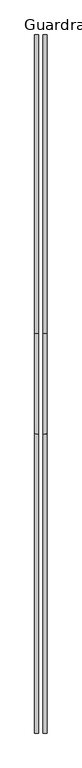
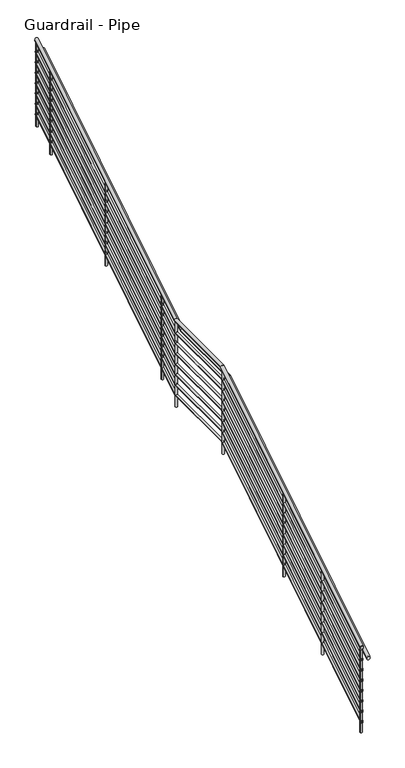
"""IFC4 building model written with IfcOpenShell, lengths in millimetres: railing geometry, Guardrail - Pipe."""

import ifcopenshell
import ifcopenshell.guid

model = None  # the IFC model being written
_history = None  # IfcOwnerHistory: only IFC2X3 demands one
_inside = {}  # id of a spatial element -> (the spatial element, [elements in it])
_under = {}  # id of a project, library or spatial element -> (it, [spatial elements below it])
_declared = {}  # id of a project -> (the project, [libraries it declares])
_typed = {}  # id of a type object -> (the type object, [elements of that type])
_made_of = {}  # id of a material, layer set ... -> (it, [elements and type objects made of it])


def new_model(schema):
    """Start an empty IFC model of exactly this schema.

    Asked for "IFC4X3", IfcOpenShell would pick the latest addendum, in which some entities
    have other attributes; the version numbers below select the first issue.
    IFC2X3 requires an IfcOwnerHistory on every rooted entity: one is made here for all.
    """
    global model, _history
    if schema == "IFC4X3":
        model = ifcopenshell.file(schema_version=(4, 3, 0, 0))
    else:
        model = ifcopenshell.file(schema=schema)
    _inside.clear()
    _under.clear()
    _declared.clear()
    _typed.clear()
    _made_of.clear()
    _history = None
    if model.schema == "IFC2X3":
        org = make("IfcOrganization", Name="unknown")
        user = make(
            "IfcPersonAndOrganization",
            ThePerson=make("IfcPerson", FamilyName="unknown"),
            TheOrganization=org,
        )
        app = make(
            "IfcApplication",
            ApplicationDeveloper=org,
            Version="unknown",
            ApplicationFullName="unknown",
            ApplicationIdentifier="unknown",
        )
        _history = make(
            "IfcOwnerHistory",
            OwningUser=user,
            OwningApplication=app,
            ChangeAction="ADDED",
            CreationDate=0,
        )
    return model


def make(cls, **values):
    """One entity of the class cls with the attributes given. An attribute that is None is left unset."""
    return model.create_entity(
        cls, **{name: value for name, value in values.items() if value is not None}
    )


def rooted(cls, **values):
    """An entity with a GlobalId (a new one), such as an element, a storey or a relation."""
    return make(cls, GlobalId=ifcopenshell.guid.new(), OwnerHistory=_history, **values)


def si_unit(unit_type, name, prefix=None):
    """IfcSIUnit, for example si_unit("LENGTHUNIT", "METRE", prefix="MILLI")."""
    return make("IfcSIUnit", UnitType=unit_type, Prefix=prefix, Name=name)


def assignment(units):
    """IfcUnitAssignment: the units of a project."""
    return None if units is None else make("IfcUnitAssignment", Units=units)


def point(xyz):
    """IfcCartesianPoint."""
    return None if xyz is None else make("IfcCartesianPoint", Coordinates=xyz)


def direction(xyz):
    """IfcDirection."""
    return None if xyz is None else make("IfcDirection", DirectionRatios=xyz)


def frame(location, z_axis=None, x_axis=None):
    """IfcAxis2Placement3D, a coordinate frame: its origin and axes. An axis left out is left unset."""
    return make(
        "IfcAxis2Placement3D",
        Location=point(location),
        Axis=direction(z_axis),
        RefDirection=direction(x_axis),
    )


def frame_2d(location, x_axis=None):
    """IfcAxis2Placement2D, a coordinate frame in the plane: its origin and x axis."""
    return make(
        "IfcAxis2Placement2D", Location=point(location), RefDirection=direction(x_axis)
    )


def origin():
    """The frame at (0, 0, 0) with its axes left unset."""
    return frame((0.0, 0.0, 0.0))


def place(relative_to, where):
    """IfcLocalPlacement: puts the frame where relative to a parent placement (None: the world)."""
    return make(
        "IfcLocalPlacement", PlacementRelTo=relative_to, RelativePlacement=where
    )


def context(
    kind, dimensions, precision=None, world=None, true_north=None, identifier=None
):
    """IfcGeometricRepresentationContext, for example the 3D "Model" context."""
    return make(
        "IfcGeometricRepresentationContext",
        ContextIdentifier=identifier,
        ContextType=kind,
        CoordinateSpaceDimension=dimensions,
        Precision=precision,
        WorldCoordinateSystem=world,
        TrueNorth=true_north,
    )


def project(units=None, contexts=None):
    """IfcProject with its units and contexts."""
    return rooted(
        "IfcProject",
        Name="project",
        RepresentationContexts=contexts,
        UnitsInContext=assignment(units),
    )


def spatial(cls, under=None, at=None, **own):
    """A site, building, storey or space (cls), placed at a placement, below another one or the project."""
    s = rooted(cls, ObjectPlacement=at, **own)
    if under is not None:
        _under.setdefault(under.id(), (under, []))[1].append(s)
    return s


def circle_curve(where, radius):
    """IfcCircle in the frame where."""
    return make("IfcCircle", Position=where, Radius=radius)


def ellipse_curve(where, semi_axis1, semi_axis2):
    """IfcEllipse in the frame where."""
    return make(
        "IfcEllipse", Position=where, SemiAxis1=semi_axis1, SemiAxis2=semi_axis2
    )


def trimmed(basis, trim1, trim2, sense, master):
    """IfcTrimmedCurve: the piece of a basis curve between two trims."""
    return make(
        "IfcTrimmedCurve",
        BasisCurve=basis,
        Trim1=trim1,
        Trim2=trim2,
        SenseAgreement=sense,
        MasterRepresentation=master,
    )


def segment(curve, same_sense, transition):
    """IfcCompositeCurveSegment."""
    return make(
        "IfcCompositeCurveSegment",
        Transition=transition,
        SameSense=same_sense,
        ParentCurve=curve,
    )


def composite_curve(segments, self_intersect=None):
    """IfcCompositeCurve: segments joined end to end."""
    return make("IfcCompositeCurve", Segments=segments, SelfIntersect=self_intersect)


def outline(outer, holes=None, kind="AREA"):
    """IfcArbitraryClosedProfileDef: a profile drawn as a closed curve; with holes, ...WithVoids."""
    if holes is None:
        return make("IfcArbitraryClosedProfileDef", ProfileType=kind, OuterCurve=outer)
    return make(
        "IfcArbitraryProfileDefWithVoids",
        ProfileType=kind,
        OuterCurve=outer,
        InnerCurves=holes,
    )


def extrude(swept, where, along, depth):
    """IfcExtrudedAreaSolid: the profile swept, set in the frame where, extruded along a direction by depth."""
    return make(
        "IfcExtrudedAreaSolid",
        SweptArea=swept,
        Position=where,
        ExtrudedDirection=direction(along),
        Depth=depth,
    )


def shape(context_of_items, identifier, shape_type, items):
    """IfcShapeRepresentation: the items that make up one representation, for example the "Body"."""
    return make(
        "IfcShapeRepresentation",
        ContextOfItems=context_of_items,
        RepresentationIdentifier=identifier,
        RepresentationType=shape_type,
        Items=items,
    )


def source(mapping_origin, context_of_items, identifier, shape_type, items):
    """IfcRepresentationMap: a shape defined once, which mapped items show again and again."""
    return make(
        "IfcRepresentationMap",
        MappingOrigin=mapping_origin,
        MappedRepresentation=shape(context_of_items, identifier, shape_type, items),
    )


def transform(
    local_origin,
    x_axis=None,
    y_axis=None,
    z_axis=None,
    scale=None,
    scale2=None,
    scale3=None,
    uniform=True,
):
    """IfcCartesianTransformationOperator3D, or its non-uniform kind. x_axis, y_axis, z_axis: its Axis1, 2, 3."""
    if uniform:
        return make(
            "IfcCartesianTransformationOperator3D",
            Axis1=direction(x_axis),
            Axis2=direction(y_axis),
            LocalOrigin=point(local_origin),
            Scale=scale,
            Axis3=direction(z_axis),
        )
    return make(
        "IfcCartesianTransformationOperator3DnonUniform",
        Axis1=direction(x_axis),
        Axis2=direction(y_axis),
        LocalOrigin=point(local_origin),
        Scale=scale,
        Axis3=direction(z_axis),
        Scale2=scale2,
        Scale3=scale3,
    )


def mapped(mapping_source, mapping_target):
    """IfcMappedItem: shows the shape of a source again, moved by a transform."""
    return make(
        "IfcMappedItem", MappingSource=mapping_source, MappingTarget=mapping_target
    )


def made_of(thing, what):
    """Note that an element or type object is made of a material, layer set ...; save() writes the relation."""
    if what is not None:
        _made_of.setdefault(what.id(), (what, []))[1].append(thing)
    return thing


def element(
    cls,
    number,
    at=None,
    inside=None,
    cuts=None,
    type_object=None,
    material=None,
    context=None,
    identifier="Body",
    shape_type=None,
    held_by="IfcProductDefinitionShape",
    body=None,
    shapes=None,
    **own,
):
    """One element of the class cls, such as IfcWall. Its Tag is "e" and its number.

    at: its placement. inside: the storey or other place that contains it. cuts: it is an
    opening in that element (IfcRelVoidsElement). A single representation is given by context,
    identifier, shape_type and body (its items); several are given by shapes. held_by: the class
    of the entity that holds the representations. save() writes the other relations.
    """
    e = rooted(cls, Tag="e%d" % number, ObjectPlacement=at, **own)
    if body is not None:
        shapes = [shape(context, identifier, shape_type, body)]
    if shapes is not None:
        e.Representation = make(held_by, Representations=shapes)
    if inside is not None:
        _inside.setdefault(inside.id(), (inside, []))[1].append(e)
    if cuts is not None:
        rooted(
            "IfcRelVoidsElement", RelatingBuildingElement=cuts, RelatedOpeningElement=e
        )
    if type_object is not None:
        _typed.setdefault(type_object.id(), (type_object, []))[1].append(e)
    return made_of(e, material)


def aggregate(whole, parts):
    """IfcRelAggregates: a whole, such as a stair, and the parts it consists of."""
    return rooted("IfcRelAggregates", RelatingObject=whole, RelatedObjects=parts)


def save(model, path):
    """Write the relations noted so far, then the file.

    IfcRelAggregates (storeys below a building ...), IfcRelContainedInSpatialStructure (elements
    in a storey), IfcRelDefinesByType, IfcRelAssociatesMaterial and IfcRelDeclares: one each for
    every whole, place, type object, material and project.
    """
    for whole, parts in _under.values():
        aggregate(whole, parts)
    for where, things in _inside.values():
        rooted(
            "IfcRelContainedInSpatialStructure",
            RelatedElements=things,
            RelatingStructure=where,
        )
    for kind, things in _typed.values():
        rooted("IfcRelDefinesByType", RelatedObjects=things, RelatingType=kind)
    for what, things in _made_of.values():
        rooted("IfcRelAssociatesMaterial", RelatedObjects=things, RelatingMaterial=what)
    for by, libraries in _declared.values():
        rooted("IfcRelDeclares", RelatingContext=by, RelatedDefinitions=libraries)
    model.write(path)


def plane_surface(at):
    """IfcPlane: the flat surface through the origin of the frame at, square to its z axis."""
    return make("IfcPlane", Position=at)


def cylinder_surface(at, radius):
    """IfcCylindricalSurface: all points at the distance radius from the z axis of the frame at."""
    return make("IfcCylindricalSurface", Position=at, Radius=radius)


def advanced_brep(points, edges, surfaces, faces):
    """IfcAdvancedBrep: a solid bounded by faces that lie on surfaces and meet in shared edges.

    An edge is (start, end): straight between two places in points (the first is 0);
    or (start, end, curve); or (start, end, curve, False) where it runs against its curve.
    A face is (place in surfaces, loops), or (place, loops, False) where it looks against
    its surface's normal. A loop lists edges by number (the first is 1), with a minus sign
    where the edge is run from its end to its start. The first loop is the outer one.
    """
    corners = [point(p) for p in points]
    vertices = [make("IfcVertexPoint", VertexGeometry=c) for c in corners]
    made = []
    for start, end, *more in edges:
        made.append(
            make(
                "IfcEdgeCurve",
                EdgeStart=vertices[start],
                EdgeEnd=vertices[end],
                EdgeGeometry=more[0] if more else make("IfcPolyline", Points=[corners[start], corners[end]]),
                SameSense=more[1] if len(more) > 1 else True,
            )
        )
    hull = []
    for where, loops, *sense in faces:
        bounds = []
        for j, loop in enumerate(loops):
            ring = [make("IfcOrientedEdge", EdgeElement=made[abs(k) - 1], Orientation=k > 0) for k in loop]
            bounds.append(
                make(
                    "IfcFaceOuterBound" if j == 0 else "IfcFaceBound",
                    Bound=make("IfcEdgeLoop", EdgeList=ring),
                    Orientation=True,
                )
            )
        hull.append(make("IfcAdvancedFace", Bounds=bounds, FaceSurface=surfaces[where], SameSense=sense[0] if sense else True))
    return make("IfcAdvancedBrep", Outer=make("IfcClosedShell", CfsFaces=hull))


def guardrail_pipe_6c1a4ac1(model_context):
    return source(origin(), model_context, "Body", "SolidModel", [
        advanced_brep(
        [(-3928.7069983, -3668.290357, 1218.5231361), (-3890.6069983, -3668.290357, 1218.5231361), (-3928.7069983, -868.8389295, 2963.6357143), (-3890.6069983, -868.8389295, 2963.6357143), (-3928.7069983, 70.9610705, 2963.6357143), (-3890.6069983, 70.9610705, 2963.6357143), (-3928.7069983, 2859.509643, 4701.9517075), (-3890.6069983, 2859.509643, 4701.9517075)],
        [
            (0, 1, ellipse_curve(frame((-3909.6569983, -3668.290357, 1218.5231361), z_axis=(0.0, -1.0, 0.0), x_axis=(0.0, 0.0, -1.0)), 22.4482925, 19.05)),
            (1, 0, ellipse_curve(frame((-3909.6569983, -3668.290357, 1218.5231361), z_axis=(0.0, -1.0, 0.0), x_axis=(0.0, 0.0, -1.0)), 22.4482925, 19.05)),
            (0, 2),
            (2, 3, ellipse_curve(frame((-3909.6569983, -868.8389295, 2963.6357143), z_axis=(0.0, -0.9614096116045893, -0.2751209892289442), x_axis=(0.0, 0.27512098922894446, -0.9614096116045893)), 19.8146552, 19.05)),
            (3, 1),
            (3, 2, ellipse_curve(frame((-3909.6569983, -868.8389295, 2963.6357143), z_axis=(0.0, -0.9614096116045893, -0.2751209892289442), x_axis=(0.0, 0.27512098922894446, -0.9614096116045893)), 19.8146552, 19.05)),
            (2, 4),
            (4, 5, ellipse_curve(frame((-3909.6569983, 70.9610705, 2963.6357143), z_axis=(0.0, -0.9614096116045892, -0.2751209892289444), x_axis=(0.0, -0.2751209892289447, 0.9614096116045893)), 19.8146552, 19.05)),
            (5, 3),
            (5, 4, ellipse_curve(frame((-3909.6569983, 70.9610705, 2963.6357143), z_axis=(0.0, -0.9614096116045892, -0.2751209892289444), x_axis=(0.0, -0.2751209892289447, 0.9614096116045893)), 19.8146552, 19.05)),
            (6, 7, ellipse_curve(frame((-3909.6569983, 2859.509643, 4701.9517075), z_axis=(0.0, 1.0, 0.0), x_axis=(0.0, 0.0, -1.0)), 22.4482925, 19.05)),
            (7, 6, ellipse_curve(frame((-3909.6569983, 2859.509643, 4701.9517075), z_axis=(0.0, 1.0, 0.0), x_axis=(0.0, 0.0, -1.0)), 22.4482925, 19.05)),
            (4, 6),
            (7, 5),
        ],
        [
            plane_surface(frame((-3909.6569983, -3668.290357, 1240.9714286), z_axis=(0.0, -1.0, 0.0), x_axis=(0.0, 0.0, 1.0))),
            cylinder_surface(frame((-3909.6569983, -3658.212756, 1224.805277), z_axis=(0.0, -0.8486168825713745, -0.5290079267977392), x_axis=(1.0, 0.0, 0.0)), 19.05),
            cylinder_surface(frame((-3909.6569983, -874.290357, 2963.6357143), z_axis=(0.0, -1.0, 0.0), x_axis=(1.0, 0.0, 0.0)), 19.05),
            plane_surface(frame((-3909.6569983, 2859.509643, 4724.4), z_axis=(0.0, 1.0, 0.0), x_axis=(0.0, 0.0, 1.0))),
            cylinder_surface(frame((-3909.6569983, 75.587244, 2966.5195627), z_axis=(0.0, -0.8486168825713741, -0.5290079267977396), x_axis=(1.0, 0.0, 0.0)), 19.05),
        ],
        [
            (0, [[1, 2]]),
            (1, [[-1, 3, 4, 5]]),
            (1, [[-2, -5, 6, -3]]),
            (2, [[-4, 7, 8, 9]]),
            (2, [[-6, -9, 10, -7]]),
            (3, [[11, 12]]),
            (4, [[-8, 13, -12, 14]]),
            (4, [[-10, -14, -11, -13]]),
        ],
    ),
        advanced_brep(
        [(-3922.3569983, -3668.290357, 1073.6059002), (-3896.9569983, -3668.290357, 1073.6059002), (-3922.3569983, -870.656072, 2817.5857143), (-3896.9569983, -870.656072, 2817.5857143), (-3922.3569983, 69.143928, 2817.5857143), (-3896.9569983, 69.143928, 2817.5857143), (-3922.3569983, 2859.509643, 4557.0344717), (-3896.9569983, 2859.509643, 4557.0344717)],
        [
            (0, 1, ellipse_curve(frame((-3909.6569983, -3668.290357, 1073.6059002), z_axis=(0.0, -1.0, 0.0), x_axis=(0.0, 0.0, -1.0)), 14.9655283, 12.7)),
            (1, 0, ellipse_curve(frame((-3909.6569983, -3668.290357, 1073.6059002), z_axis=(0.0, -1.0, 0.0), x_axis=(0.0, 0.0, -1.0)), 14.9655283, 12.7)),
            (0, 2),
            (2, 3, ellipse_curve(frame((-3909.6569983, -870.656072, 2817.5857143), z_axis=(0.0, -0.9614096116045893, -0.2751209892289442), x_axis=(0.0, 0.27512098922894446, -0.9614096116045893)), 13.2097702, 12.7)),
            (3, 1),
            (3, 2, ellipse_curve(frame((-3909.6569983, -870.656072, 2817.5857143), z_axis=(0.0, -0.9614096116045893, -0.2751209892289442), x_axis=(0.0, 0.27512098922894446, -0.9614096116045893)), 13.2097702, 12.7)),
            (2, 4),
            (4, 5, ellipse_curve(frame((-3909.6569983, 69.143928, 2817.5857143), z_axis=(0.0, -0.9614096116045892, -0.2751209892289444), x_axis=(0.0, -0.2751209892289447, 0.9614096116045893)), 13.2097702, 12.7)),
            (5, 3),
            (5, 4, ellipse_curve(frame((-3909.6569983, 69.143928, 2817.5857143), z_axis=(0.0, -0.9614096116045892, -0.2751209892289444), x_axis=(0.0, -0.2751209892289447, 0.9614096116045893)), 13.2097702, 12.7)),
            (6, 7, ellipse_curve(frame((-3909.6569983, 2859.509643, 4557.0344717), z_axis=(0.0, 1.0, 0.0), x_axis=(0.0, 0.0, -1.0)), 14.9655283, 12.7)),
            (7, 6, ellipse_curve(frame((-3909.6569983, 2859.509643, 4557.0344717), z_axis=(0.0, 1.0, 0.0), x_axis=(0.0, 0.0, -1.0)), 14.9655283, 12.7)),
            (4, 6),
            (7, 5),
        ],
        [
            plane_surface(frame((-3909.6569983, -3668.290357, 1088.5714286), z_axis=(0.0, -1.0, 0.0), x_axis=(0.0, 0.0, 1.0))),
            cylinder_surface(frame((-3909.6569983, -3661.5719564, 1077.7939942), z_axis=(0.0, -0.8486168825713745, -0.5290079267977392), x_axis=(1.0, 0.0, 0.0)), 12.7),
            cylinder_surface(frame((-3909.6569983, -874.290357, 2817.5857143), z_axis=(0.0, -1.0, 0.0), x_axis=(1.0, 0.0, 0.0)), 12.7),
            plane_surface(frame((-3909.6569983, 2859.509643, 4572.0), z_axis=(0.0, 1.0, 0.0), x_axis=(0.0, 0.0, 1.0))),
            cylinder_surface(frame((-3909.6569983, 72.2280436, 2819.5082799), z_axis=(0.0, -0.8486168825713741, -0.5290079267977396), x_axis=(1.0, 0.0, 0.0)), 12.7),
        ],
        [
            (0, [[1, 2]]),
            (1, [[-1, 3, 4, 5]]),
            (1, [[-2, -5, 6, -3]]),
            (2, [[-4, 7, 8, 9]]),
            (2, [[-6, -9, 10, -7]]),
            (3, [[11, 12]]),
            (4, [[-8, 13, -12, 14]]),
            (4, [[-10, -14, -11, -13]]),
        ],
    ),
        advanced_brep(
        [(-3852.5069983, -3668.290357, 1066.1231361), (-3814.4069983, -3668.290357, 1066.1231361), (-3852.5069983, -868.8389295, 2811.2357143), (-3814.4069983, -868.8389295, 2811.2357143), (-3852.5069983, 70.9610705, 2811.2357143), (-3814.4069983, 70.9610705, 2811.2357143), (-3852.5069983, 2859.509643, 4549.5517075), (-3814.4069983, 2859.509643, 4549.5517075)],
        [
            (0, 1, ellipse_curve(frame((-3833.4569983, -3668.290357, 1066.1231361), z_axis=(0.0, -1.0, 0.0), x_axis=(0.0, 0.0, -1.0)), 22.4482925, 19.05)),
            (1, 0, ellipse_curve(frame((-3833.4569983, -3668.290357, 1066.1231361), z_axis=(0.0, -1.0, 0.0), x_axis=(0.0, 0.0, -1.0)), 22.4482925, 19.05)),
            (0, 2),
            (2, 3, ellipse_curve(frame((-3833.4569983, -868.8389295, 2811.2357143), z_axis=(0.0, -0.9614096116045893, -0.2751209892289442), x_axis=(0.0, 0.27512098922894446, -0.9614096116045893)), 19.8146552, 19.05)),
            (3, 1),
            (3, 2, ellipse_curve(frame((-3833.4569983, -868.8389295, 2811.2357143), z_axis=(0.0, -0.9614096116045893, -0.2751209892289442), x_axis=(0.0, 0.27512098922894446, -0.9614096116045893)), 19.8146552, 19.05)),
            (2, 4),
            (4, 5, ellipse_curve(frame((-3833.4569983, 70.9610705, 2811.2357143), z_axis=(0.0, -0.9614096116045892, -0.2751209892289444), x_axis=(0.0, -0.2751209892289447, 0.9614096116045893)), 19.8146552, 19.05)),
            (5, 3),
            (5, 4, ellipse_curve(frame((-3833.4569983, 70.9610705, 2811.2357143), z_axis=(0.0, -0.9614096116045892, -0.2751209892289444), x_axis=(0.0, -0.2751209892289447, 0.9614096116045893)), 19.8146552, 19.05)),
            (6, 7, ellipse_curve(frame((-3833.4569983, 2859.509643, 4549.5517075), z_axis=(0.0, 1.0, 0.0), x_axis=(0.0, 0.0, -1.0)), 22.4482925, 19.05)),
            (7, 6, ellipse_curve(frame((-3833.4569983, 2859.509643, 4549.5517075), z_axis=(0.0, 1.0, 0.0), x_axis=(0.0, 0.0, -1.0)), 22.4482925, 19.05)),
            (4, 6),
            (7, 5),
        ],
        [
            plane_surface(frame((-3833.4569983, -3668.290357, 1088.5714286), z_axis=(0.0, -1.0, 0.0), x_axis=(0.0, 0.0, 1.0))),
            cylinder_surface(frame((-3833.4569983, -3658.212756, 1072.405277), z_axis=(0.0, -0.8486168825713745, -0.5290079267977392), x_axis=(1.0, 0.0, 0.0)), 19.05),
            cylinder_surface(frame((-3833.4569983, -874.290357, 2811.2357143), z_axis=(0.0, -1.0, 0.0), x_axis=(1.0, 0.0, 0.0)), 19.05),
            plane_surface(frame((-3833.4569983, 2859.509643, 4572.0), z_axis=(0.0, 1.0, 0.0), x_axis=(0.0, 0.0, 1.0))),
            cylinder_surface(frame((-3833.4569983, 75.587244, 2814.1195627), z_axis=(0.0, -0.8486168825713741, -0.5290079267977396), x_axis=(1.0, 0.0, 0.0)), 19.05),
        ],
        [
            (0, [[1, 2]]),
            (1, [[-1, 3, 4, 5]]),
            (1, [[-2, -5, 6, -3]]),
            (2, [[-4, 7, 8, 9]]),
            (2, [[-6, -9, 10, -7]]),
            (3, [[11, 12]]),
            (4, [[-8, 13, -12, 14]]),
            (4, [[-10, -14, -11, -13]]),
        ],
    ),
        advanced_brep(
        [(-3922.3569983, -3668.290357, 946.6059002), (-3896.9569983, -3668.290357, 946.6059002), (-3922.3569983, -870.656072, 2690.5857143), (-3896.9569983, -870.656072, 2690.5857143), (-3922.3569983, 69.143928, 2690.5857143), (-3896.9569983, 69.143928, 2690.5857143), (-3922.3569983, 2859.509643, 4430.0344717), (-3896.9569983, 2859.509643, 4430.0344717)],
        [
            (0, 1, ellipse_curve(frame((-3909.6569983, -3668.290357, 946.6059002), z_axis=(0.0, -1.0, 0.0), x_axis=(0.0, 0.0, -1.0)), 14.9655283, 12.7)),
            (1, 0, ellipse_curve(frame((-3909.6569983, -3668.290357, 946.6059002), z_axis=(0.0, -1.0, 0.0), x_axis=(0.0, 0.0, -1.0)), 14.9655283, 12.7)),
            (0, 2),
            (2, 3, ellipse_curve(frame((-3909.6569983, -870.656072, 2690.5857143), z_axis=(0.0, -0.9614096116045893, -0.2751209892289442), x_axis=(0.0, 0.27512098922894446, -0.9614096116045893)), 13.2097702, 12.7)),
            (3, 1),
            (3, 2, ellipse_curve(frame((-3909.6569983, -870.656072, 2690.5857143), z_axis=(0.0, -0.9614096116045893, -0.2751209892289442), x_axis=(0.0, 0.27512098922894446, -0.9614096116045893)), 13.2097702, 12.7)),
            (2, 4),
            (4, 5, ellipse_curve(frame((-3909.6569983, 69.143928, 2690.5857143), z_axis=(0.0, -0.9614096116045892, -0.2751209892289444), x_axis=(0.0, -0.2751209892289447, 0.9614096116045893)), 13.2097702, 12.7)),
            (5, 3),
            (5, 4, ellipse_curve(frame((-3909.6569983, 69.143928, 2690.5857143), z_axis=(0.0, -0.9614096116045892, -0.2751209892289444), x_axis=(0.0, -0.2751209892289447, 0.9614096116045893)), 13.2097702, 12.7)),
            (6, 7, ellipse_curve(frame((-3909.6569983, 2859.509643, 4430.0344717), z_axis=(0.0, 1.0, 0.0), x_axis=(0.0, 0.0, -1.0)), 14.9655283, 12.7)),
            (7, 6, ellipse_curve(frame((-3909.6569983, 2859.509643, 4430.0344717), z_axis=(0.0, 1.0, 0.0), x_axis=(0.0, 0.0, -1.0)), 14.9655283, 12.7)),
            (4, 6),
            (7, 5),
        ],
        [
            plane_surface(frame((-3909.6569983, -3668.290357, 961.5714286), z_axis=(0.0, -1.0, 0.0), x_axis=(0.0, 0.0, 1.0))),
            cylinder_surface(frame((-3909.6569983, -3661.5719564, 950.7939942), z_axis=(0.0, -0.8486168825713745, -0.5290079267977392), x_axis=(1.0, 0.0, 0.0)), 12.7),
            cylinder_surface(frame((-3909.6569983, -874.290357, 2690.5857143), z_axis=(0.0, -1.0, 0.0), x_axis=(1.0, 0.0, 0.0)), 12.7),
            plane_surface(frame((-3909.6569983, 2859.509643, 4445.0), z_axis=(0.0, 1.0, 0.0), x_axis=(0.0, 0.0, 1.0))),
            cylinder_surface(frame((-3909.6569983, 72.2280436, 2692.5082799), z_axis=(0.0, -0.8486168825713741, -0.5290079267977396), x_axis=(1.0, 0.0, 0.0)), 12.7),
        ],
        [
            (0, [[1, 2]]),
            (1, [[-1, 3, 4, 5]]),
            (1, [[-2, -5, 6, -3]]),
            (2, [[-4, 7, 8, 9]]),
            (2, [[-6, -9, 10, -7]]),
            (3, [[11, 12]]),
            (4, [[-8, 13, -12, 14]]),
            (4, [[-10, -14, -11, -13]]),
        ],
    ),
        advanced_brep(
        [(-3922.3569983, -3668.290357, 819.6059002), (-3896.9569983, -3668.290357, 819.6059002), (-3922.3569983, -870.656072, 2563.5857143), (-3896.9569983, -870.656072, 2563.5857143), (-3922.3569983, 69.143928, 2563.5857143), (-3896.9569983, 69.143928, 2563.5857143), (-3922.3569983, 2859.509643, 4303.0344717), (-3896.9569983, 2859.509643, 4303.0344717)],
        [
            (0, 1, ellipse_curve(frame((-3909.6569983, -3668.290357, 819.6059002), z_axis=(0.0, -1.0, 0.0), x_axis=(0.0, 0.0, -1.0)), 14.9655283, 12.7)),
            (1, 0, ellipse_curve(frame((-3909.6569983, -3668.290357, 819.6059002), z_axis=(0.0, -1.0, 0.0), x_axis=(0.0, 0.0, -1.0)), 14.9655283, 12.7)),
            (0, 2),
            (2, 3, ellipse_curve(frame((-3909.6569983, -870.656072, 2563.5857143), z_axis=(0.0, -0.9614096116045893, -0.2751209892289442), x_axis=(0.0, 0.27512098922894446, -0.9614096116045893)), 13.2097702, 12.7)),
            (3, 1),
            (3, 2, ellipse_curve(frame((-3909.6569983, -870.656072, 2563.5857143), z_axis=(0.0, -0.9614096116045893, -0.2751209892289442), x_axis=(0.0, 0.27512098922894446, -0.9614096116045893)), 13.2097702, 12.7)),
            (2, 4),
            (4, 5, ellipse_curve(frame((-3909.6569983, 69.143928, 2563.5857143), z_axis=(0.0, -0.9614096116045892, -0.2751209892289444), x_axis=(0.0, -0.2751209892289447, 0.9614096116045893)), 13.2097702, 12.7)),
            (5, 3),
            (5, 4, ellipse_curve(frame((-3909.6569983, 69.143928, 2563.5857143), z_axis=(0.0, -0.9614096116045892, -0.2751209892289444), x_axis=(0.0, -0.2751209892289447, 0.9614096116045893)), 13.2097702, 12.7)),
            (6, 7, ellipse_curve(frame((-3909.6569983, 2859.509643, 4303.0344717), z_axis=(0.0, 1.0, 0.0), x_axis=(0.0, 0.0, -1.0)), 14.9655283, 12.7)),
            (7, 6, ellipse_curve(frame((-3909.6569983, 2859.509643, 4303.0344717), z_axis=(0.0, 1.0, 0.0), x_axis=(0.0, 0.0, -1.0)), 14.9655283, 12.7)),
            (4, 6),
            (7, 5),
        ],
        [
            plane_surface(frame((-3909.6569983, -3668.290357, 834.5714286), z_axis=(0.0, -1.0, 0.0), x_axis=(0.0, 0.0, 1.0))),
            cylinder_surface(frame((-3909.6569983, -3661.5719564, 823.7939942), z_axis=(0.0, -0.8486168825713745, -0.5290079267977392), x_axis=(1.0, 0.0, 0.0)), 12.7),
            cylinder_surface(frame((-3909.6569983, -874.290357, 2563.5857143), z_axis=(0.0, -1.0, 0.0), x_axis=(1.0, 0.0, 0.0)), 12.7),
            plane_surface(frame((-3909.6569983, 2859.509643, 4318.0), z_axis=(0.0, 1.0, 0.0), x_axis=(0.0, 0.0, 1.0))),
            cylinder_surface(frame((-3909.6569983, 72.2280436, 2565.5082799), z_axis=(0.0, -0.8486168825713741, -0.5290079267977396), x_axis=(1.0, 0.0, 0.0)), 12.7),
        ],
        [
            (0, [[1, 2]]),
            (1, [[-1, 3, 4, 5]]),
            (1, [[-2, -5, 6, -3]]),
            (2, [[-4, 7, 8, 9]]),
            (2, [[-6, -9, 10, -7]]),
            (3, [[11, 12]]),
            (4, [[-8, 13, -12, 14]]),
            (4, [[-10, -14, -11, -13]]),
        ],
    ),
        advanced_brep(
        [(-3922.3569983, -3668.290357, 692.6059002), (-3896.9569983, -3668.290357, 692.6059002), (-3922.3569983, -870.656072, 2436.5857143), (-3896.9569983, -870.656072, 2436.5857143), (-3922.3569983, 69.143928, 2436.5857143), (-3896.9569983, 69.143928, 2436.5857143), (-3922.3569983, 2859.509643, 4176.0344717), (-3896.9569983, 2859.509643, 4176.0344717)],
        [
            (0, 1, ellipse_curve(frame((-3909.6569983, -3668.290357, 692.6059002), z_axis=(0.0, -1.0, 0.0), x_axis=(0.0, 0.0, -1.0)), 14.9655283, 12.7)),
            (1, 0, ellipse_curve(frame((-3909.6569983, -3668.290357, 692.6059002), z_axis=(0.0, -1.0, 0.0), x_axis=(0.0, 0.0, -1.0)), 14.9655283, 12.7)),
            (0, 2),
            (2, 3, ellipse_curve(frame((-3909.6569983, -870.656072, 2436.5857143), z_axis=(0.0, -0.9614096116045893, -0.2751209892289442), x_axis=(0.0, 0.27512098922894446, -0.9614096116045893)), 13.2097702, 12.7)),
            (3, 1),
            (3, 2, ellipse_curve(frame((-3909.6569983, -870.656072, 2436.5857143), z_axis=(0.0, -0.9614096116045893, -0.2751209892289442), x_axis=(0.0, 0.27512098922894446, -0.9614096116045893)), 13.2097702, 12.7)),
            (2, 4),
            (4, 5, ellipse_curve(frame((-3909.6569983, 69.143928, 2436.5857143), z_axis=(0.0, -0.9614096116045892, -0.2751209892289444), x_axis=(0.0, -0.2751209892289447, 0.9614096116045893)), 13.2097702, 12.7)),
            (5, 3),
            (5, 4, ellipse_curve(frame((-3909.6569983, 69.143928, 2436.5857143), z_axis=(0.0, -0.9614096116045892, -0.2751209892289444), x_axis=(0.0, -0.2751209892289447, 0.9614096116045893)), 13.2097702, 12.7)),
            (6, 7, ellipse_curve(frame((-3909.6569983, 2859.509643, 4176.0344717), z_axis=(0.0, 1.0, 0.0), x_axis=(0.0, 0.0, -1.0)), 14.9655283, 12.7)),
            (7, 6, ellipse_curve(frame((-3909.6569983, 2859.509643, 4176.0344717), z_axis=(0.0, 1.0, 0.0), x_axis=(0.0, 0.0, -1.0)), 14.9655283, 12.7)),
            (4, 6),
            (7, 5),
        ],
        [
            plane_surface(frame((-3909.6569983, -3668.290357, 707.5714286), z_axis=(0.0, -1.0, 0.0), x_axis=(0.0, 0.0, 1.0))),
            cylinder_surface(frame((-3909.6569983, -3661.5719564, 696.7939942), z_axis=(0.0, -0.8486168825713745, -0.5290079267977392), x_axis=(1.0, 0.0, 0.0)), 12.7),
            cylinder_surface(frame((-3909.6569983, -874.290357, 2436.5857143), z_axis=(0.0, -1.0, 0.0), x_axis=(1.0, 0.0, 0.0)), 12.7),
            plane_surface(frame((-3909.6569983, 2859.509643, 4191.0), z_axis=(0.0, 1.0, 0.0), x_axis=(0.0, 0.0, 1.0))),
            cylinder_surface(frame((-3909.6569983, 72.2280436, 2438.5082799), z_axis=(0.0, -0.8486168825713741, -0.5290079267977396), x_axis=(1.0, 0.0, 0.0)), 12.7),
        ],
        [
            (0, [[1, 2]]),
            (1, [[-1, 3, 4, 5]]),
            (1, [[-2, -5, 6, -3]]),
            (2, [[-4, 7, 8, 9]]),
            (2, [[-6, -9, 10, -7]]),
            (3, [[11, 12]]),
            (4, [[-8, 13, -12, 14]]),
            (4, [[-10, -14, -11, -13]]),
        ],
    ),
        advanced_brep(
        [(-3922.3569983, -3668.290357, 565.6059002), (-3896.9569983, -3668.290357, 565.6059002), (-3922.3569983, -870.656072, 2309.5857143), (-3896.9569983, -870.656072, 2309.5857143), (-3922.3569983, 69.143928, 2309.5857143), (-3896.9569983, 69.143928, 2309.5857143), (-3922.3569983, 2859.509643, 4049.0344717), (-3896.9569983, 2859.509643, 4049.0344717)],
        [
            (0, 1, ellipse_curve(frame((-3909.6569983, -3668.290357, 565.6059002), z_axis=(0.0, -1.0, 0.0), x_axis=(0.0, 0.0, -1.0)), 14.9655283, 12.7)),
            (1, 0, ellipse_curve(frame((-3909.6569983, -3668.290357, 565.6059002), z_axis=(0.0, -1.0, 0.0), x_axis=(0.0, 0.0, -1.0)), 14.9655283, 12.7)),
            (0, 2),
            (2, 3, ellipse_curve(frame((-3909.6569983, -870.656072, 2309.5857143), z_axis=(0.0, -0.9614096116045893, -0.2751209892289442), x_axis=(0.0, 0.27512098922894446, -0.9614096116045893)), 13.2097702, 12.7)),
            (3, 1),
            (3, 2, ellipse_curve(frame((-3909.6569983, -870.656072, 2309.5857143), z_axis=(0.0, -0.9614096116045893, -0.2751209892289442), x_axis=(0.0, 0.27512098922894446, -0.9614096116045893)), 13.2097702, 12.7)),
            (2, 4),
            (4, 5, ellipse_curve(frame((-3909.6569983, 69.143928, 2309.5857143), z_axis=(0.0, -0.9614096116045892, -0.2751209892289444), x_axis=(0.0, -0.2751209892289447, 0.9614096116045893)), 13.2097702, 12.7)),
            (5, 3),
            (5, 4, ellipse_curve(frame((-3909.6569983, 69.143928, 2309.5857143), z_axis=(0.0, -0.9614096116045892, -0.2751209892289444), x_axis=(0.0, -0.2751209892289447, 0.9614096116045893)), 13.2097702, 12.7)),
            (6, 7, ellipse_curve(frame((-3909.6569983, 2859.509643, 4049.0344717), z_axis=(0.0, 1.0, 0.0), x_axis=(0.0, 0.0, -1.0)), 14.9655283, 12.7)),
            (7, 6, ellipse_curve(frame((-3909.6569983, 2859.509643, 4049.0344717), z_axis=(0.0, 1.0, 0.0), x_axis=(0.0, 0.0, -1.0)), 14.9655283, 12.7)),
            (4, 6),
            (7, 5),
        ],
        [
            plane_surface(frame((-3909.6569983, -3668.290357, 580.5714286), z_axis=(0.0, -1.0, 0.0), x_axis=(0.0, 0.0, 1.0))),
            cylinder_surface(frame((-3909.6569983, -3661.5719564, 569.7939942), z_axis=(0.0, -0.8486168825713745, -0.5290079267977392), x_axis=(1.0, 0.0, 0.0)), 12.7),
            cylinder_surface(frame((-3909.6569983, -874.290357, 2309.5857143), z_axis=(0.0, -1.0, 0.0), x_axis=(1.0, 0.0, 0.0)), 12.7),
            plane_surface(frame((-3909.6569983, 2859.509643, 4064.0), z_axis=(0.0, 1.0, 0.0), x_axis=(0.0, 0.0, 1.0))),
            cylinder_surface(frame((-3909.6569983, 72.2280436, 2311.5082799), z_axis=(0.0, -0.8486168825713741, -0.5290079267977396), x_axis=(1.0, 0.0, 0.0)), 12.7),
        ],
        [
            (0, [[1, 2]]),
            (1, [[-1, 3, 4, 5]]),
            (1, [[-2, -5, 6, -3]]),
            (2, [[-4, 7, 8, 9]]),
            (2, [[-6, -9, 10, -7]]),
            (3, [[11, 12]]),
            (4, [[-8, 13, -12, 14]]),
            (4, [[-10, -14, -11, -13]]),
        ],
    ),
        advanced_brep(
        [(-3922.3569983, -3668.290357, 438.6059002), (-3896.9569983, -3668.290357, 438.6059002), (-3922.3569983, -870.656072, 2182.5857143), (-3896.9569983, -870.656072, 2182.5857143), (-3922.3569983, 69.143928, 2182.5857143), (-3896.9569983, 69.143928, 2182.5857143), (-3922.3569983, 2859.509643, 3922.0344717), (-3896.9569983, 2859.509643, 3922.0344717)],
        [
            (0, 1, ellipse_curve(frame((-3909.6569983, -3668.290357, 438.6059002), z_axis=(0.0, -1.0, 0.0), x_axis=(0.0, 0.0, -1.0)), 14.9655283, 12.7)),
            (1, 0, ellipse_curve(frame((-3909.6569983, -3668.290357, 438.6059002), z_axis=(0.0, -1.0, 0.0), x_axis=(0.0, 0.0, -1.0)), 14.9655283, 12.7)),
            (0, 2),
            (2, 3, ellipse_curve(frame((-3909.6569983, -870.656072, 2182.5857143), z_axis=(0.0, -0.9614096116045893, -0.2751209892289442), x_axis=(0.0, 0.27512098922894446, -0.9614096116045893)), 13.2097702, 12.7)),
            (3, 1),
            (3, 2, ellipse_curve(frame((-3909.6569983, -870.656072, 2182.5857143), z_axis=(0.0, -0.9614096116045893, -0.2751209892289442), x_axis=(0.0, 0.27512098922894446, -0.9614096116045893)), 13.2097702, 12.7)),
            (2, 4),
            (4, 5, ellipse_curve(frame((-3909.6569983, 69.143928, 2182.5857143), z_axis=(0.0, -0.9614096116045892, -0.2751209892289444), x_axis=(0.0, -0.2751209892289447, 0.9614096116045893)), 13.2097702, 12.7)),
            (5, 3),
            (5, 4, ellipse_curve(frame((-3909.6569983, 69.143928, 2182.5857143), z_axis=(0.0, -0.9614096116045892, -0.2751209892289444), x_axis=(0.0, -0.2751209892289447, 0.9614096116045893)), 13.2097702, 12.7)),
            (6, 7, ellipse_curve(frame((-3909.6569983, 2859.509643, 3922.0344717), z_axis=(0.0, 1.0, 0.0), x_axis=(0.0, 0.0, -1.0)), 14.9655283, 12.7)),
            (7, 6, ellipse_curve(frame((-3909.6569983, 2859.509643, 3922.0344717), z_axis=(0.0, 1.0, 0.0), x_axis=(0.0, 0.0, -1.0)), 14.9655283, 12.7)),
            (4, 6),
            (7, 5),
        ],
        [
            plane_surface(frame((-3909.6569983, -3668.290357, 453.5714286), z_axis=(0.0, -1.0, 0.0), x_axis=(0.0, 0.0, 1.0))),
            cylinder_surface(frame((-3909.6569983, -3661.5719564, 442.7939942), z_axis=(0.0, -0.8486168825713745, -0.5290079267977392), x_axis=(1.0, 0.0, 0.0)), 12.7),
            cylinder_surface(frame((-3909.6569983, -874.290357, 2182.5857143), z_axis=(0.0, -1.0, 0.0), x_axis=(1.0, 0.0, 0.0)), 12.7),
            plane_surface(frame((-3909.6569983, 2859.509643, 3937.0), z_axis=(0.0, 1.0, 0.0), x_axis=(0.0, 0.0, 1.0))),
            cylinder_surface(frame((-3909.6569983, 72.2280436, 2184.5082799), z_axis=(0.0, -0.8486168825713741, -0.5290079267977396), x_axis=(1.0, 0.0, 0.0)), 12.7),
        ],
        [
            (0, [[1, 2]]),
            (1, [[-1, 3, 4, 5]]),
            (1, [[-2, -5, 6, -3]]),
            (2, [[-4, 7, 8, 9]]),
            (2, [[-6, -9, 10, -7]]),
            (3, [[11, 12]]),
            (4, [[-8, 13, -12, 14]]),
            (4, [[-10, -14, -11, -13]]),
        ],
    ),
        advanced_brep(
        [(-3922.3569983, -3668.290357, 311.6059002), (-3896.9569983, -3668.290357, 311.6059002), (-3922.3569983, -870.656072, 2055.5857143), (-3896.9569983, -870.656072, 2055.5857143), (-3922.3569983, 69.143928, 2055.5857143), (-3896.9569983, 69.143928, 2055.5857143), (-3922.3569983, 2859.509643, 3795.0344717), (-3896.9569983, 2859.509643, 3795.0344717)],
        [
            (0, 1, ellipse_curve(frame((-3909.6569983, -3668.290357, 311.6059002), z_axis=(0.0, -1.0, 0.0), x_axis=(0.0, 0.0, -1.0)), 14.9655283, 12.7)),
            (1, 0, ellipse_curve(frame((-3909.6569983, -3668.290357, 311.6059002), z_axis=(0.0, -1.0, 0.0), x_axis=(0.0, 0.0, -1.0)), 14.9655283, 12.7)),
            (0, 2),
            (2, 3, ellipse_curve(frame((-3909.6569983, -870.656072, 2055.5857143), z_axis=(0.0, -0.9614096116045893, -0.2751209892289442), x_axis=(0.0, 0.27512098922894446, -0.9614096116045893)), 13.2097702, 12.7)),
            (3, 1),
            (3, 2, ellipse_curve(frame((-3909.6569983, -870.656072, 2055.5857143), z_axis=(0.0, -0.9614096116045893, -0.2751209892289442), x_axis=(0.0, 0.27512098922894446, -0.9614096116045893)), 13.2097702, 12.7)),
            (2, 4),
            (4, 5, ellipse_curve(frame((-3909.6569983, 69.143928, 2055.5857143), z_axis=(0.0, -0.9614096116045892, -0.2751209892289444), x_axis=(0.0, -0.2751209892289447, 0.9614096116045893)), 13.2097702, 12.7)),
            (5, 3),
            (5, 4, ellipse_curve(frame((-3909.6569983, 69.143928, 2055.5857143), z_axis=(0.0, -0.9614096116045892, -0.2751209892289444), x_axis=(0.0, -0.2751209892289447, 0.9614096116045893)), 13.2097702, 12.7)),
            (6, 7, ellipse_curve(frame((-3909.6569983, 2859.509643, 3795.0344717), z_axis=(0.0, 1.0, 0.0), x_axis=(0.0, 0.0, -1.0)), 14.9655283, 12.7)),
            (7, 6, ellipse_curve(frame((-3909.6569983, 2859.509643, 3795.0344717), z_axis=(0.0, 1.0, 0.0), x_axis=(0.0, 0.0, -1.0)), 14.9655283, 12.7)),
            (4, 6),
            (7, 5),
        ],
        [
            plane_surface(frame((-3909.6569983, -3668.290357, 326.5714286), z_axis=(0.0, -1.0, 0.0), x_axis=(0.0, 0.0, 1.0))),
            cylinder_surface(frame((-3909.6569983, -3661.5719564, 315.7939942), z_axis=(0.0, -0.8486168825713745, -0.5290079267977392), x_axis=(1.0, 0.0, 0.0)), 12.7),
            cylinder_surface(frame((-3909.6569983, -874.290357, 2055.5857143), z_axis=(0.0, -1.0, 0.0), x_axis=(1.0, 0.0, 0.0)), 12.7),
            plane_surface(frame((-3909.6569983, 2859.509643, 3810.0), z_axis=(0.0, 1.0, 0.0), x_axis=(0.0, 0.0, 1.0))),
            cylinder_surface(frame((-3909.6569983, 72.2280436, 2057.5082799), z_axis=(0.0, -0.8486168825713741, -0.5290079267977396), x_axis=(1.0, 0.0, 0.0)), 12.7),
        ],
        [
            (0, [[1, 2]]),
            (1, [[-1, 3, 4, 5]]),
            (1, [[-2, -5, 6, -3]]),
            (2, [[-4, 7, 8, 9]]),
            (2, [[-6, -9, 10, -7]]),
            (3, [[11, 12]]),
            (4, [[-8, 13, -12, 14]]),
            (4, [[-10, -14, -11, -13]]),
        ],
    ),
        advanced_brep(
        [(-3896.9569983, 2847.1280585, 3649.8816097), (-3922.3569983, 2847.1280585, 3649.8816097), (-3922.3569983, 2847.1280585, 4671.7850247), (-3896.9569983, 2847.1280585, 4671.7850247)],
        [
            (0, 1, circle_curve(frame((-3909.6569983, 2847.1280585, 3649.8816097), z_axis=(0.0, 0.0, -1.0), x_axis=(-1.0, 0.0, 0.0)), 12.7)),
            (1, 0, circle_curve(frame((-3909.6569983, 2847.1280585, 3649.8816097), z_axis=(0.0, 0.0, -1.0), x_axis=(-1.0, 0.0, 0.0)), 12.7)),
            (1, 2),
            (2, 3, ellipse_curve(frame((-3909.6569983, 2847.1280585, 4671.7850247), z_axis=(0.0, 0.5290079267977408, -0.8486168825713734), x_axis=(0.0, 0.8486168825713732, 0.5290079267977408)), 14.9655283, 12.7)),
            (3, 0),
            (3, 2, ellipse_curve(frame((-3909.6569983, 2847.1280585, 4671.7850247), z_axis=(0.0, 0.5290079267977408, -0.8486168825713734), x_axis=(0.0, 0.8486168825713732, 0.5290079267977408)), 14.9655283, 12.7)),
        ],
        [
            plane_surface(frame((-3922.3569983, 2847.1280585, 3649.8816097), z_axis=(0.0, 0.0, -1.0), x_axis=(0.0, 1.0, 0.0))),
            cylinder_surface(frame((-3909.6569983, 2847.1280585, 3649.8816097), z_axis=(0.0, 0.0, 1.0), x_axis=(-1.0, 0.0, 0.0)), 12.7),
            plane_surface(frame((-3956.8828282, 2882.0530585, 4693.5564532), z_axis=(0.0, -0.5290079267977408, 0.8486168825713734), x_axis=(1.0, 0.0, 0.0))),
        ],
        [
            (0, [[1, 2]]),
            (1, [[-2, 3, 4, 5]]),
            (1, [[-1, -5, 6, -3]]),
            (2, [[-4, -6]]),
        ],
    ),
        advanced_brep(
        [(-3896.9569983, 2567.7280585, 3475.7101811), (-3922.3569983, 2567.7280585, 3475.7101811), (-3922.3569983, 2567.7280585, 4497.6135961), (-3896.9569983, 2567.7280585, 4497.6135961)],
        [
            (0, 1, circle_curve(frame((-3909.6569983, 2567.7280585, 3475.7101811), z_axis=(0.0, 0.0, -1.0), x_axis=(-1.0, 0.0, 0.0)), 12.7)),
            (1, 0, circle_curve(frame((-3909.6569983, 2567.7280585, 3475.7101811), z_axis=(0.0, 0.0, -1.0), x_axis=(-1.0, 0.0, 0.0)), 12.7)),
            (1, 2),
            (2, 3, ellipse_curve(frame((-3909.6569983, 2567.7280585, 4497.6135961), z_axis=(0.0, 0.5290079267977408, -0.8486168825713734), x_axis=(0.0, 0.8486168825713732, 0.5290079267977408)), 14.9655283, 12.7)),
            (3, 0),
            (3, 2, ellipse_curve(frame((-3909.6569983, 2567.7280585, 4497.6135961), z_axis=(0.0, 0.5290079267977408, -0.8486168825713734), x_axis=(0.0, 0.8486168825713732, 0.5290079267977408)), 14.9655283, 12.7)),
        ],
        [
            plane_surface(frame((-3922.3569983, 2567.7280585, 3475.7101811), z_axis=(0.0, 0.0, -1.0), x_axis=(0.0, 1.0, 0.0))),
            cylinder_surface(frame((-3909.6569983, 2567.7280585, 3475.7101811), z_axis=(0.0, 0.0, 1.0), x_axis=(-1.0, 0.0, 0.0)), 12.7),
            plane_surface(frame((-3956.8828282, 2602.6530585, 4519.3850247), z_axis=(0.0, -0.5290079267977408, 0.8486168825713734), x_axis=(1.0, 0.0, 0.0))),
        ],
        [
            (0, [[1, 2]]),
            (1, [[-2, 3, 4, 5]]),
            (1, [[-1, -5, 6, -3]]),
            (2, [[-4, -6]]),
        ],
    ),
        advanced_brep(
        [(-3896.9569983, 1462.509643, 2786.7428571), (-3922.3569983, 1462.509643, 2786.7428571), (-3922.3569983, 1462.509643, 3808.6462721), (-3896.9569983, 1462.509643, 3808.6462721)],
        [
            (0, 1, circle_curve(frame((-3909.6569983, 1462.509643, 2786.7428571), z_axis=(0.0, 0.0, -1.0), x_axis=(-1.0, 0.0, 0.0)), 12.7)),
            (1, 0, circle_curve(frame((-3909.6569983, 1462.509643, 2786.7428571), z_axis=(0.0, 0.0, -1.0), x_axis=(-1.0, 0.0, 0.0)), 12.7)),
            (1, 2),
            (2, 3, ellipse_curve(frame((-3909.6569983, 1462.509643, 3808.6462721), z_axis=(0.0, 0.5290079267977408, -0.8486168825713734), x_axis=(0.0, 0.8486168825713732, 0.5290079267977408)), 14.9655283, 12.7)),
            (3, 0),
            (3, 2, ellipse_curve(frame((-3909.6569983, 1462.509643, 3808.6462721), z_axis=(0.0, 0.5290079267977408, -0.8486168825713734), x_axis=(0.0, 0.8486168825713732, 0.5290079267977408)), 14.9655283, 12.7)),
        ],
        [
            plane_surface(frame((-3922.3569983, 1462.509643, 2786.7428571), z_axis=(0.0, 0.0, -1.0), x_axis=(0.0, 1.0, 0.0))),
            cylinder_surface(frame((-3909.6569983, 1462.509643, 2786.7428571), z_axis=(0.0, 0.0, 1.0), x_axis=(-1.0, 0.0, 0.0)), 12.7),
            plane_surface(frame((-3956.8828282, 1497.434643, 3830.4177007), z_axis=(0.0, -0.5290079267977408, 0.8486168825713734), x_axis=(1.0, 0.0, 0.0))),
        ],
        [
            (0, [[1, 2]]),
            (1, [[-2, 3, 4, 5]]),
            (1, [[-1, -5, 6, -3]]),
            (2, [[-4, -6]]),
        ],
    ),
        advanced_brep(
        [(-3896.9569983, 332.5280585, 2082.3387525), (-3922.3569983, 332.5280585, 2082.3387525), (-3922.3569983, 332.5280585, 3104.2421675), (-3896.9569983, 332.5280585, 3104.2421675)],
        [
            (0, 1, circle_curve(frame((-3909.6569983, 332.5280585, 2082.3387525), z_axis=(0.0, 0.0, -1.0), x_axis=(-1.0, 0.0, 0.0)), 12.7)),
            (1, 0, circle_curve(frame((-3909.6569983, 332.5280585, 2082.3387525), z_axis=(0.0, 0.0, -1.0), x_axis=(-1.0, 0.0, 0.0)), 12.7)),
            (1, 2),
            (2, 3, ellipse_curve(frame((-3909.6569983, 332.5280585, 3104.2421675), z_axis=(0.0, 0.5290079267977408, -0.8486168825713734), x_axis=(0.0, 0.8486168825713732, 0.5290079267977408)), 14.9655283, 12.7)),
            (3, 0),
            (3, 2, ellipse_curve(frame((-3909.6569983, 332.5280585, 3104.2421675), z_axis=(0.0, 0.5290079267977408, -0.8486168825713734), x_axis=(0.0, 0.8486168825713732, 0.5290079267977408)), 14.9655283, 12.7)),
        ],
        [
            plane_surface(frame((-3922.3569983, 332.5280585, 2082.3387525), z_axis=(0.0, 0.0, -1.0), x_axis=(0.0, 1.0, 0.0))),
            cylinder_surface(frame((-3909.6569983, 332.5280585, 2082.3387525), z_axis=(0.0, 0.0, 1.0), x_axis=(-1.0, 0.0, 0.0)), 12.7),
            plane_surface(frame((-3956.8828282, 367.4530585, 3126.0135961), z_axis=(0.0, -0.5290079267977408, 0.8486168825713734), x_axis=(1.0, 0.0, 0.0))),
        ],
        [
            (0, [[1, 2]]),
            (1, [[-2, 3, 4, 5]]),
            (1, [[-1, -5, 6, -3]]),
            (2, [[-4, -6]]),
        ],
    ),
        extrude(outline(composite_curve([segment(trimmed(circle_curve(frame_2d((-3909.6569983, 53.1280585)), 12.7), [point((-3896.9569983, 53.1280585))], [point((-3922.3569983, 53.1280585))], False, "CARTESIAN"), True, "CONTINUOUS"), segment(trimmed(circle_curve(frame_2d((-3909.6569983, 53.1280585)), 12.7), [point((-3922.3569983, 53.1280585))], [point((-3896.9569983, 53.1280585))], False, "CARTESIAN"), True, "CONTINUOUS")], self_intersect=False)), frame((0.0, 0.0, 1915.8857143), z_axis=(0.0, 0.0, 1.0), x_axis=(1.0, 0.0, 0.0)), (0.0, 0.0, 1.0), 1028.7),
        advanced_brep(
        [(-3896.9569983, -886.6719415, 1908.167324), (-3922.3569983, -886.6719415, 1908.167324), (-3922.3569983, -886.6719415, 2930.070739), (-3896.9569983, -886.6719415, 2930.070739)],
        [
            (0, 1, circle_curve(frame((-3909.6569983, -886.6719415, 1908.167324), z_axis=(0.0, 0.0, -1.0), x_axis=(-1.0, 0.0, 0.0)), 12.7)),
            (1, 0, circle_curve(frame((-3909.6569983, -886.6719415, 1908.167324), z_axis=(0.0, 0.0, -1.0), x_axis=(-1.0, 0.0, 0.0)), 12.7)),
            (1, 2),
            (2, 3, ellipse_curve(frame((-3909.6569983, -886.6719415, 2930.070739), z_axis=(0.0, 0.5290079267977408, -0.8486168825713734), x_axis=(0.0, 0.8486168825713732, 0.5290079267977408)), 14.9655283, 12.7)),
            (3, 0),
            (3, 2, ellipse_curve(frame((-3909.6569983, -886.6719415, 2930.070739), z_axis=(0.0, 0.5290079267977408, -0.8486168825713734), x_axis=(0.0, 0.8486168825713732, 0.5290079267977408)), 14.9655283, 12.7)),
        ],
        [
            plane_surface(frame((-3922.3569983, -886.6719415, 1908.167324), z_axis=(0.0, 0.0, -1.0), x_axis=(0.0, 1.0, 0.0))),
            cylinder_surface(frame((-3909.6569983, -886.6719415, 1908.167324), z_axis=(0.0, 0.0, 1.0), x_axis=(-1.0, 0.0, 0.0)), 12.7),
            plane_surface(frame((-3956.8828282, -851.7469415, 2951.8421675), z_axis=(0.0, -0.5290079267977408, 0.8486168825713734), x_axis=(1.0, 0.0, 0.0))),
        ],
        [
            (0, [[1, 2]]),
            (1, [[-2, 3, 4, 5]]),
            (1, [[-1, -5, 6, -3]]),
            (2, [[-4, -6]]),
        ],
    ),
        advanced_brep(
        [(-3896.9569983, -2105.8719415, 1148.1465447), (-3922.3569983, -2105.8719415, 1148.1465447), (-3922.3569983, -2105.8719415, 2170.0499597), (-3896.9569983, -2105.8719415, 2170.0499597)],
        [
            (0, 1, circle_curve(frame((-3909.6569983, -2105.8719415, 1148.1465447), z_axis=(0.0, 0.0, -1.0), x_axis=(-1.0, 0.0, 0.0)), 12.7)),
            (1, 0, circle_curve(frame((-3909.6569983, -2105.8719415, 1148.1465447), z_axis=(0.0, 0.0, -1.0), x_axis=(-1.0, 0.0, 0.0)), 12.7)),
            (1, 2),
            (2, 3, ellipse_curve(frame((-3909.6569983, -2105.8719415, 2170.0499597), z_axis=(0.0, 0.5290079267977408, -0.8486168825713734), x_axis=(0.0, 0.8486168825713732, 0.5290079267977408)), 14.9655283, 12.7)),
            (3, 0),
            (3, 2, ellipse_curve(frame((-3909.6569983, -2105.8719415, 2170.0499597), z_axis=(0.0, 0.5290079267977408, -0.8486168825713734), x_axis=(0.0, 0.8486168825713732, 0.5290079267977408)), 14.9655283, 12.7)),
        ],
        [
            plane_surface(frame((-3922.3569983, -2105.8719415, 1148.1465447), z_axis=(0.0, 0.0, -1.0), x_axis=(0.0, 1.0, 0.0))),
            cylinder_surface(frame((-3909.6569983, -2105.8719415, 1148.1465447), z_axis=(0.0, 0.0, 1.0), x_axis=(-1.0, 0.0, 0.0)), 12.7),
            plane_surface(frame((-3956.8828282, -2070.9469415, 2191.8213883), z_axis=(0.0, -0.5290079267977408, 0.8486168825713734), x_axis=(1.0, 0.0, 0.0))),
        ],
        [
            (0, [[1, 2]]),
            (1, [[-2, 3, 4, 5]]),
            (1, [[-1, -5, 6, -3]]),
            (2, [[-4, -6]]),
        ],
    ),
        advanced_brep(
        [(-3896.9569983, -2880.890357, 665.0181818), (-3922.3569983, -2880.890357, 665.0181818), (-3922.3569983, -2880.890357, 1686.9215968), (-3896.9569983, -2880.890357, 1686.9215968)],
        [
            (0, 1, circle_curve(frame((-3909.6569983, -2880.890357, 665.0181818), z_axis=(0.0, 0.0, -1.0), x_axis=(-1.0, 0.0, 0.0)), 12.7)),
            (1, 0, circle_curve(frame((-3909.6569983, -2880.890357, 665.0181818), z_axis=(0.0, 0.0, -1.0), x_axis=(-1.0, 0.0, 0.0)), 12.7)),
            (1, 2),
            (2, 3, ellipse_curve(frame((-3909.6569983, -2880.890357, 1686.9215968), z_axis=(0.0, 0.5290079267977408, -0.8486168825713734), x_axis=(0.0, 0.8486168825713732, 0.5290079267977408)), 14.9655283, 12.7)),
            (3, 0),
            (3, 2, ellipse_curve(frame((-3909.6569983, -2880.890357, 1686.9215968), z_axis=(0.0, 0.5290079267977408, -0.8486168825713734), x_axis=(0.0, 0.8486168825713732, 0.5290079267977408)), 14.9655283, 12.7)),
        ],
        [
            plane_surface(frame((-3922.3569983, -2880.890357, 665.0181818), z_axis=(0.0, 0.0, -1.0), x_axis=(0.0, 1.0, 0.0))),
            cylinder_surface(frame((-3909.6569983, -2880.890357, 665.0181818), z_axis=(0.0, 0.0, 1.0), x_axis=(-1.0, 0.0, 0.0)), 12.7),
            plane_surface(frame((-3956.8828282, -2845.965357, 1708.6930254), z_axis=(0.0, -0.5290079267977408, 0.8486168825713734), x_axis=(1.0, 0.0, 0.0))),
        ],
        [
            (0, [[1, 2]]),
            (1, [[-2, 3, 4, 5]]),
            (1, [[-1, -5, 6, -3]]),
            (2, [[-4, -6]]),
        ],
    ),
        advanced_brep(
        [(-3896.9569983, -3655.9087726, 181.8898189), (-3922.3569983, -3655.9087726, 181.8898189), (-3922.3569983, -3655.9087726, 1203.7932339), (-3896.9569983, -3655.9087726, 1203.7932339)],
        [
            (0, 1, circle_curve(frame((-3909.6569983, -3655.9087726, 181.8898189), z_axis=(0.0, 0.0, -1.0), x_axis=(-1.0, 0.0, 0.0)), 12.7)),
            (1, 0, circle_curve(frame((-3909.6569983, -3655.9087726, 181.8898189), z_axis=(0.0, 0.0, -1.0), x_axis=(-1.0, 0.0, 0.0)), 12.7)),
            (1, 2),
            (2, 3, ellipse_curve(frame((-3909.6569983, -3655.9087726, 1203.7932339), z_axis=(0.0, 0.5290079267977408, -0.8486168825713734), x_axis=(0.0, 0.8486168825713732, 0.5290079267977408)), 14.9655283, 12.7)),
            (3, 0),
            (3, 2, ellipse_curve(frame((-3909.6569983, -3655.9087726, 1203.7932339), z_axis=(0.0, 0.5290079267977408, -0.8486168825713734), x_axis=(0.0, 0.8486168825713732, 0.5290079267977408)), 14.9655283, 12.7)),
        ],
        [
            plane_surface(frame((-3922.3569983, -3655.9087726, 181.8898189), z_axis=(0.0, 0.0, -1.0), x_axis=(0.0, 1.0, 0.0))),
            cylinder_surface(frame((-3909.6569983, -3655.9087726, 181.8898189), z_axis=(0.0, 0.0, 1.0), x_axis=(-1.0, 0.0, 0.0)), 12.7),
            plane_surface(frame((-3956.8828282, -3620.9837726, 1225.5646625), z_axis=(0.0, -0.5290079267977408, 0.8486168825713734), x_axis=(1.0, 0.0, 0.0))),
        ],
        [
            (0, [[1, 2]]),
            (1, [[-2, 3, 4, 5]]),
            (1, [[-1, -5, 6, -3]]),
            (2, [[-4, -6]]),
        ],
    ),
    ])


if __name__ == "__main__":
    model = new_model("IFC4")
    model_context = context("Model", 3, world=origin())
    ifc_project = project(units=[si_unit("LENGTHUNIT", "METRE", prefix="MILLI")], contexts=[model_context])
    site = spatial("IfcSite", under=ifc_project)
    building = spatial("IfcBuilding", under=site)
    placement = place(None, origin())
    guardrail_pipe_shape = guardrail_pipe_6c1a4ac1(model_context)
    element("IfcRailing", 1, ObjectType="Guardrail - Pipe", at=placement, inside=building, context=model_context, shape_type="MappedRepresentation", body=[
        mapped(guardrail_pipe_shape, transform((0.0, 0.0, 0.0), x_axis=(1.0, 0.0, 0.0), y_axis=(0.0, 1.0, 0.0), z_axis=(0.0, 0.0, 1.0))),
    ])
    save(model, "model.ifc")
